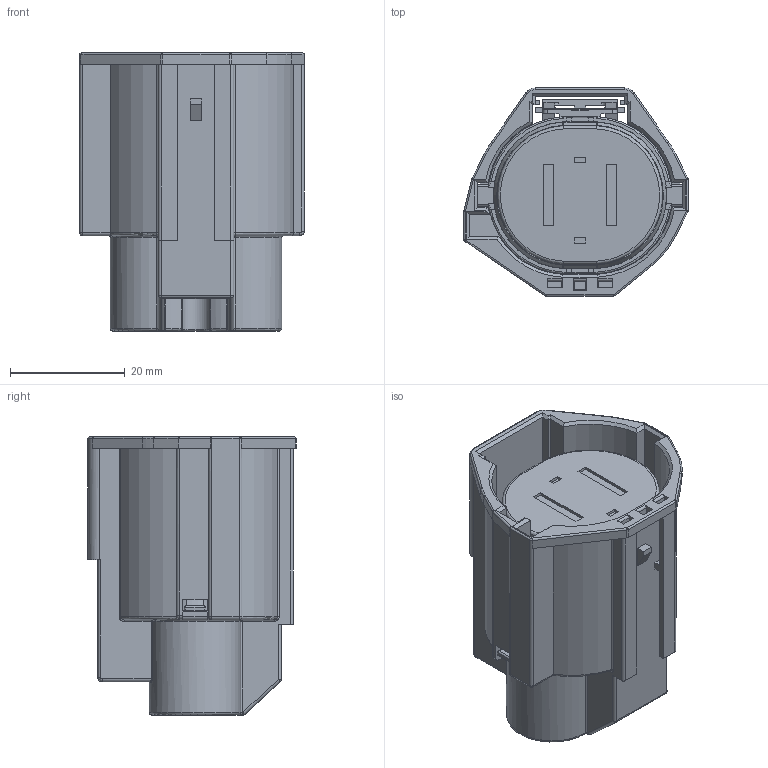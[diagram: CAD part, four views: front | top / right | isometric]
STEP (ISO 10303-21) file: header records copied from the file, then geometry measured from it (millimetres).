
FILE_DESCRIPTION(/* description */ (''),/* implementation_level */ '2;1');
FILE_NAME(/* name */ 'YESC15_58Y-4S-3.step',/* time_stamp */ '2025-04-28T12:46:42-05:00',/* author */ (''),/* organization */ ('Corsa Technic, LLC'),/* preprocessor_version */ 'ST-DEVELOPER v20.1',/* originating_system */ 'Autodesk Translation Framework v14.4.0.0',/* authorisation */ '3D design STEP models are provided for reference only. STEP models DO NOT provide accurate tolerance information and the model may not be constructed to the nominal nor the manufacturing-optimized version of the design. User assumes all risks from use of these models. Corsa Technic, LLC makes no representation or warranty (expressed or implied) with respect to the STEP models, including but not limited to the accuracy or completeness of product dimensions or any other technical specifications contained in or accompanying the STEP models, non-infringement of third party rights, and quality, suitability, fitness for purpose or title.');
FILE_SCHEMA (('AUTOMOTIVE_DESIGN { 1 0 10303 214 3 1 1 }'));
Length unit declared in the file: millimetre
Products named in the file (1): YESC15_58Y-4S-3
Bounding box: 39.2 x 36.35 x 48.55 mm (x, y, z)
Volume: 24088.7 mm3; surface area: 17576 mm2
Topology: 1 solids, 2 shells, 640 faces, 1639 edges, 996 vertices
Faces by surface type: plane 302, cylinder 206, torus 65, bspline 32, sphere 18, cone 17
Full cylindrical faces by diameter (mm): 5 x2, 13 x2
Entity records: 20354 total; most frequent: CARTESIAN_POINT 4844, ORIENTED_EDGE 3270, DIRECTION 3243, EDGE_CURVE 1635, AXIS2_PLACEMENT_3D 1124, VERTEX_POINT 996, LINE 995, VECTOR 995
